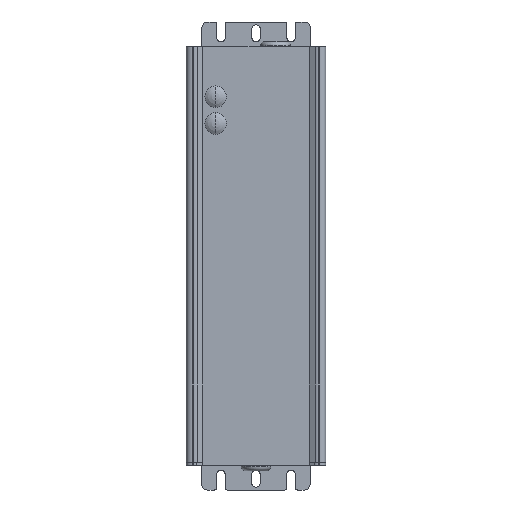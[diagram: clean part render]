
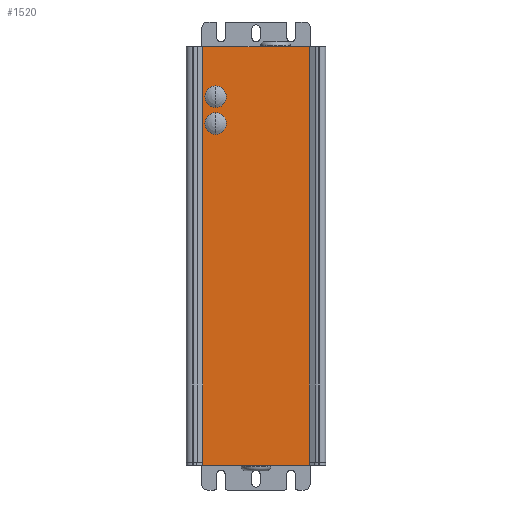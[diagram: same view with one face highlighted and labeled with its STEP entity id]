
A CAD part, left-side view. The second image highlights one B-rep face of the part: STEP entity #1520.
In plain terms, the highlighted planar face has unit normal (-1, 0, 0).
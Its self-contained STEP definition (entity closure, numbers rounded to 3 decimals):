
#430=CARTESIAN_POINT('',(1771.873,-2450.564,
9.5));
#440=DIRECTION('',(-1.,0.,0.));
#450=DIRECTION('',(0.,1.,0.));
#460=AXIS2_PLACEMENT_3D('',#430,#440,#450);
#470=PLANE('',#460);
#480=CARTESIAN_POINT('',(1771.873,-2404.864,
170.));
#490=DIRECTION('',(-1.,0.,0.));
#500=DIRECTION('',(0.,-1.,0.));
#510=AXIS2_PLACEMENT_3D('',#480,#490,#500);
#520=CIRCLE('',#510,5.25);
#530=CARTESIAN_POINT('',(1771.873,-2404.864,
164.75));
#540=VERTEX_POINT('',#530);
#550=CARTESIAN_POINT('',(1771.873,-2410.114,
170.));
#560=VERTEX_POINT('',#550);
#570=EDGE_CURVE('',#540,#560,#520,.T.);
#580=ORIENTED_EDGE('',*,*,#570,.F.);
#590=CARTESIAN_POINT('',(1771.873,-2399.614,
170.));
#600=VERTEX_POINT('',#590);
#610=EDGE_CURVE('',#560,#600,#520,.T.);
#620=ORIENTED_EDGE('',*,*,#610,.F.);
#630=EDGE_CURVE('',#600,#540,#520,.T.);
#640=ORIENTED_EDGE('',*,*,#630,.F.);
#650=EDGE_LOOP('',(#640,#620,#580));
#660=FACE_BOUND('',#650,.T.);
#670=CARTESIAN_POINT('',(1771.873,-2404.864,
183.));
#680=DIRECTION('',(-1.,0.,0.));
#690=DIRECTION('',(0.,-1.,0.));
#700=AXIS2_PLACEMENT_3D('',#670,#680,#690);
#710=CIRCLE('',#700,5.25);
#720=CARTESIAN_POINT('',(1771.873,-2404.864,
177.75));
#730=VERTEX_POINT('',#720);
#740=CARTESIAN_POINT('',(1771.873,-2410.114,
183.));
#750=VERTEX_POINT('',#740);
#760=EDGE_CURVE('',#730,#750,#710,.T.);
#770=ORIENTED_EDGE('',*,*,#760,.F.);
#780=CARTESIAN_POINT('',(1771.873,-2399.614,
183.));
#790=VERTEX_POINT('',#780);
#800=EDGE_CURVE('',#750,#790,#710,.T.);
#810=ORIENTED_EDGE('',*,*,#800,.F.);
#820=EDGE_CURVE('',#790,#730,#710,.T.);
#830=ORIENTED_EDGE('',*,*,#820,.F.);
#840=EDGE_LOOP('',(#830,#810,#770));
#850=FACE_BOUND('',#840,.T.);
#860=CARTESIAN_POINT('',(1771.873,-2450.514,
3.24));
#870=DIRECTION('',(0.,0.,1.));
#880=VECTOR('',#870,1.);
#890=LINE('',#860,#880);
#900=CARTESIAN_POINT('',(1771.873,-2450.514,
3.4));
#910=VERTEX_POINT('',#900);
#920=CARTESIAN_POINT('',(1771.873,-2450.514,
5.));
#930=VERTEX_POINT('',#920);
#940=EDGE_CURVE('',#910,#930,#890,.T.);
#950=ORIENTED_EDGE('',*,*,#940,.T.);
#960=CARTESIAN_POINT('',(1771.873,-4401.798,
3.4));
#970=DIRECTION('',(0.,1.,0.));
#980=VECTOR('',#970,1.);
#990=LINE('',#960,#980);
#1000=CARTESIAN_POINT('',(1771.873,-2398.514,
3.4));
#1010=VERTEX_POINT('',#1000);
#1020=EDGE_CURVE('',#910,#1010,#990,.T.);
#1030=ORIENTED_EDGE('',*,*,#1020,.F.);
#1040=CARTESIAN_POINT('',(1771.873,-2398.514,
3.24));
#1050=DIRECTION('',(0.,0.,1.));
#1060=VECTOR('',#1050,1.);
#1070=LINE('',#1040,#1060);
#1080=CARTESIAN_POINT('',(1771.873,-2398.514,
5.));
#1090=VERTEX_POINT('',#1080);
#1100=EDGE_CURVE('',#1010,#1090,#1070,.T.);
#1110=ORIENTED_EDGE('',*,*,#1100,.F.);
#1120=CARTESIAN_POINT('',(1771.873,-0.4,
5.));
#1130=DIRECTION('',(0.,1.,0.));
#1140=VECTOR('',#1130,1.);
#1150=LINE('',#1120,#1140);
#1160=CARTESIAN_POINT('',(1771.873,-2398.564,
5.));
#1170=VERTEX_POINT('',#1160);
#1180=EDGE_CURVE('',#1170,#1090,#1150,.T.);
#1190=ORIENTED_EDGE('',*,*,#1180,.T.);
#1200=CARTESIAN_POINT('',(1771.873,-2398.564,
9.5));
#1210=DIRECTION('',(0.,0.,1.));
#1220=VECTOR('',#1210,1.);
#1230=LINE('',#1200,#1220);
#1240=CARTESIAN_POINT('',(1771.873,-2398.564,
207.4));
#1250=VERTEX_POINT('',#1240);
#1260=EDGE_CURVE('',#1170,#1250,#1230,.T.);
#1270=ORIENTED_EDGE('',*,*,#1260,.F.);
#1280=CARTESIAN_POINT('',(1771.873,-447.279,
207.4));
#1290=DIRECTION('',(0.,-1.,0.));
#1300=VECTOR('',#1290,1.);
#1310=LINE('',#1280,#1300);
#1320=CARTESIAN_POINT('',(1771.873,-2450.564,
207.4));
#1330=VERTEX_POINT('',#1320);
#1340=EDGE_CURVE('',#1250,#1330,#1310,.T.);
#1350=ORIENTED_EDGE('',*,*,#1340,.F.);
#1360=CARTESIAN_POINT('',(1771.873,-2450.564,
9.5));
#1370=DIRECTION('',(0.,0.,1.));
#1380=VECTOR('',#1370,1.);
#1390=LINE('',#1360,#1380);
#1400=CARTESIAN_POINT('',(1771.873,-2450.564,
5.));
#1410=VERTEX_POINT('',#1400);
#1420=EDGE_CURVE('',#1410,#1330,#1390,.T.);
#1430=ORIENTED_EDGE('',*,*,#1420,.T.);
#1440=CARTESIAN_POINT('',(1771.873,-0.4,
5.));
#1450=DIRECTION('',(0.,1.,-0.));
#1460=VECTOR('',#1450,1.);
#1470=LINE('',#1440,#1460);
#1480=EDGE_CURVE('',#1410,#930,#1470,.T.);
#1490=ORIENTED_EDGE('',*,*,#1480,.F.);
#1500=EDGE_LOOP('',(#1490,#1430,#1350,#1270,#1190,#1110,#1030,#950));
#1510=FACE_OUTER_BOUND('',#1500,.T.);
#1520=ADVANCED_FACE('',(#660,#850,#1510),#470,.T.);
